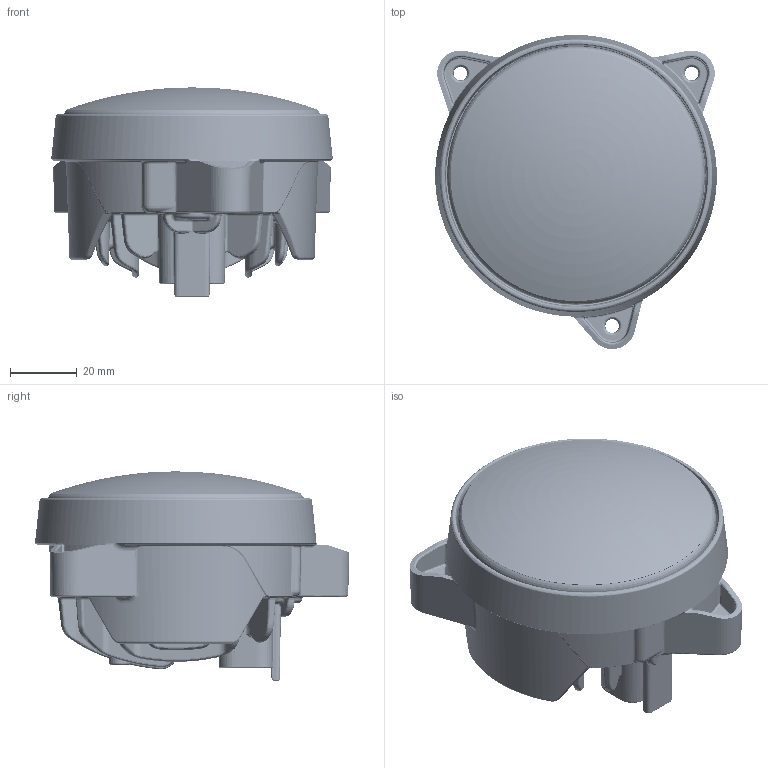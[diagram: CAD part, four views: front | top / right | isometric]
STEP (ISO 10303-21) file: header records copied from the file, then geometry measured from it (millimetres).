
FILE_DESCRIPTION(('HOOPS Exchange Step'),'2;1');
FILE_NAME('M:\Produkt Marketingunterlagen\S_Series\Imagebilder\FORVIA_HELLA_3D_data_Module_70_S_series_3-point-flush-mounting_1G0-996-776.stp','2025-01-22T14:43:13+01:00',('koerju1'),('Unknown organisation'),'HOOPS Exchange 2024.5','HOOPS Exchange','Unknown authorisation');
FILE_SCHEMA( ('AUTOMOTIVE_DESIGN { 1 0 10303 214 1 1 1 1 }') );
Length unit declared in the file: millimetre
Products named in the file (1): 10003137449_D10_001
Bounding box: 84.62 x 94.37 x 62.85 mm (x, y, z)
Surface area: 41999.5 mm2 (no closed solid volume)
Topology: 0 solids, 1011 shells, 54806 faces, 89722 edges, 35635 vertices
Faces by surface type: plane 54806
Entity records: 474115 total; most frequent: DIRECTION 109614, CARTESIAN_POINT 90442, AXIS2_PLACEMENT_3D 54807, PLANE 54806, POLY_LOOP 54806, FACE_OUTER_BOUND 54806, FACE_SURFACE 54806, PLANE_ANGLE_MEASURE_WITH_UNIT 1
